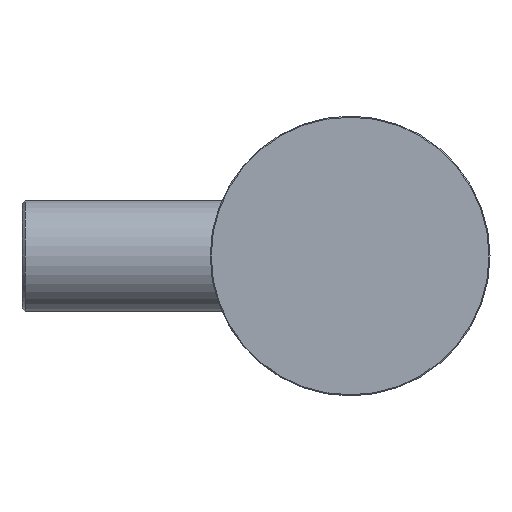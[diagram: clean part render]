
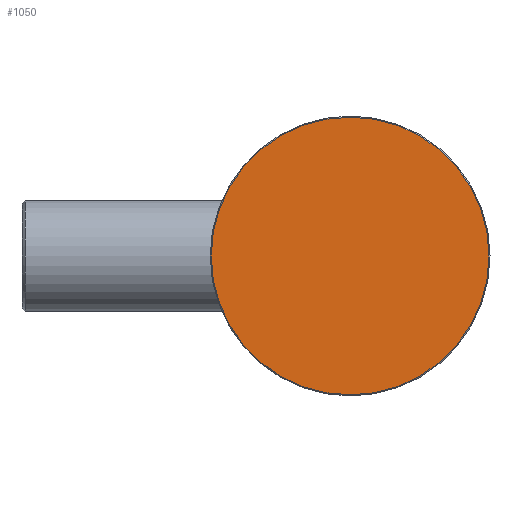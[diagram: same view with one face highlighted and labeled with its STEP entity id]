
A CAD part, left-side view. The second image highlights one B-rep face of the part: STEP entity #1050.
In plain terms, the highlighted planar face has unit normal (-1, 0, 0).
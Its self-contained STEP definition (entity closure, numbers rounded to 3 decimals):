
#8 = DIRECTION ( 'NONE',  ( 0., -1., 0. ) ) ;
#18 = PLANE ( 'NONE',  #1052 ) ;
#72 = VERTEX_POINT ( 'NONE', #793 ) ;
#160 = DIRECTION ( 'NONE',  ( 0., -1., 0. ) ) ;
#331 = DIRECTION ( 'NONE',  ( 0., -1., 0. ) ) ;
#529 = EDGE_CURVE ( 'NONE', #1425, #72, #579, .T. ) ;
#555 = CARTESIAN_POINT ( 'NONE',  ( -277.4, 0., 0. ) ) ;
#571 = FACE_OUTER_BOUND ( 'NONE', #785, .T. ) ;
#579 = CIRCLE ( 'NONE', #1174, 27.3 ) ;
#660 = CIRCLE ( 'NONE', #1056, 27.3 ) ;
#716 = DIRECTION ( 'NONE',  ( -1., 0., 0. ) ) ;
#769 = ORIENTED_EDGE ( 'NONE', *, *, #1317, .T. ) ;
#785 = EDGE_LOOP ( 'NONE', ( #769, #957 ) ) ;
#793 = CARTESIAN_POINT ( 'NONE',  ( -277.4, 27.3, 0. ) ) ;
#794 = CARTESIAN_POINT ( 'NONE',  ( -277.4, 27.5, 0. ) ) ;
#834 = CARTESIAN_POINT ( 'NONE',  ( -277.4, 0., 0. ) ) ;
#957 = ORIENTED_EDGE ( 'NONE', *, *, #529, .T. ) ;
#1050 = ADVANCED_FACE ( 'NONE', ( #571 ), #18, .T. ) ;
#1052 = AXIS2_PLACEMENT_3D ( 'NONE', #794, #1203, #8 ) ;
#1056 = AXIS2_PLACEMENT_3D ( 'NONE', #834, #716, #160 ) ;
#1174 = AXIS2_PLACEMENT_3D ( 'NONE', #555, #1322, #331 ) ;
#1203 = DIRECTION ( 'NONE',  ( -1., 0., 0. ) ) ;
#1317 = EDGE_CURVE ( 'NONE', #72, #1425, #660, .T. ) ;
#1322 = DIRECTION ( 'NONE',  ( -1., 0., 0. ) ) ;
#1387 = CARTESIAN_POINT ( 'NONE',  ( -277.4, -27.3, 0. ) ) ;
#1425 = VERTEX_POINT ( 'NONE', #1387 ) ;
